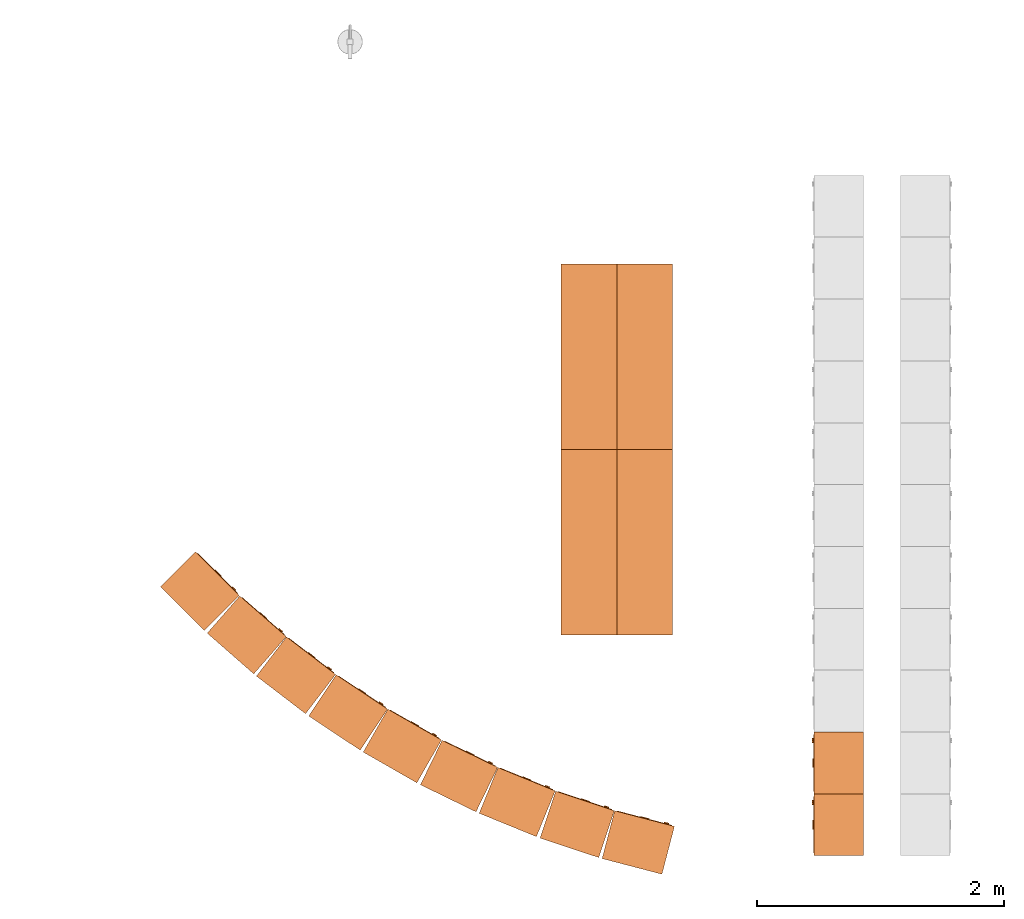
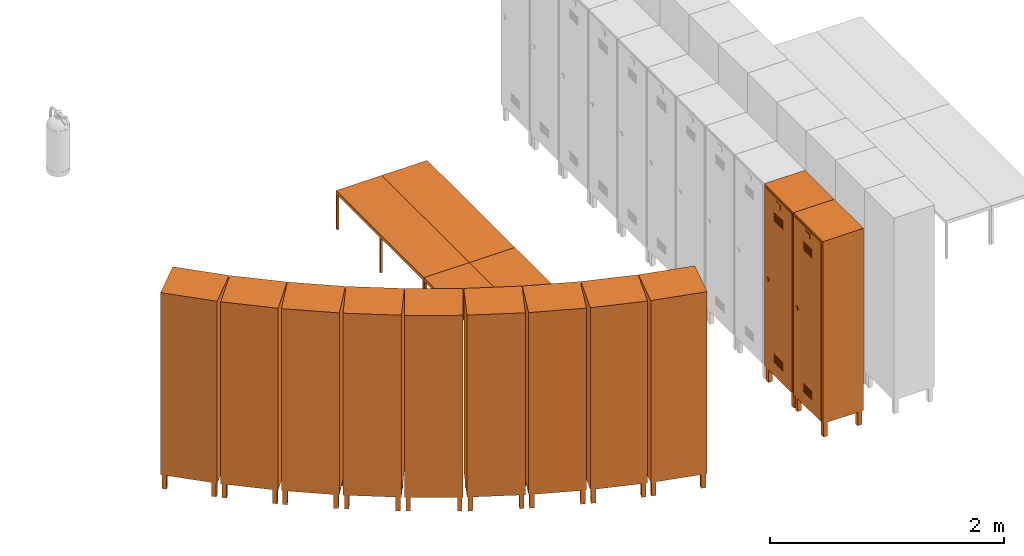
# One storey, part 4 of 7: 15 proxies.
"""IFC4 building model written with IfcOpenShell, lengths in millimetres."""

from ifc_helpers import new_model, entity, si_unit, converted_unit, derived_unit, direction, frame, origin_with_axes, place, context, subcontext, project, spatial, polygons, source, transform, mapped, type_object, element, save


model = new_model("IFC4")

# Units and contexts
model_context = context("Model", 3, precision=0.01, world=origin_with_axes(), true_north=direction((0.0, 1.0)))
body_context = subcontext(model_context, "Body", "Model", "MODEL_VIEW")
ifc_project = project(units=[si_unit("LENGTHUNIT", "METRE", prefix="MILLI"), si_unit("AREAUNIT", "SQUARE_METRE"), si_unit("VOLUMEUNIT", "CUBIC_METRE"), converted_unit("PLANEANGLEUNIT", "DEGREE", entity("IfcPlaneAngleMeasure", 0.0174532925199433), si_unit("PLANEANGLEUNIT", "RADIAN"), dimensions=[0, 0, 0, 0, 0, 0, 0]), converted_unit("TIMEUNIT", "Year", entity("IfcTimeMeasure", 31557600.0), si_unit("TIMEUNIT", "SECOND"), dimensions=[0, 0, 1, 0, 0, 0, 0]), si_unit("MASSUNIT", "GRAM", prefix="KILO"), si_unit("THERMODYNAMICTEMPERATUREUNIT", "DEGREE_CELSIUS"), si_unit("LUMINOUSINTENSITYUNIT", "LUMEN"), si_unit("ENERGYUNIT", "JOULE", prefix="MEGA"), derived_unit("THERMALCONDUCTANCEUNIT", [(si_unit("POWERUNIT", "WATT"), 1), (si_unit("LENGTHUNIT", "METRE"), -1), (si_unit("THERMODYNAMICTEMPERATUREUNIT", "KELVIN"), -1)]), derived_unit("SPECIFICHEATCAPACITYUNIT", [(si_unit("ENERGYUNIT", "JOULE"), 1), (si_unit("MASSUNIT", "GRAM", prefix="KILO"), -1), (si_unit("THERMODYNAMICTEMPERATUREUNIT", "KELVIN"), -1)]), derived_unit("MASSDENSITYUNIT", [(si_unit("MASSUNIT", "GRAM", prefix="KILO"), 1), (si_unit("VOLUMEUNIT", "CUBIC_METRE"), -1)])], contexts=[model_context])

# Site, building, storey
site_placement = place(None, origin_with_axes())
site = spatial("IfcSite", under=ifc_project, at=site_placement, Name="Exteriér", CompositionType="ELEMENT")
building_placement = place(site_placement, origin_with_axes())
building = spatial("IfcBuilding", under=site, at=building_placement, Name="Univerzitní lezecké centrum", CompositionType="ELEMENT")
storey_placement = place(building_placement, frame((0.0, 0.0, -3350.0), z_axis=(0.0, 0.0, 1.0), x_axis=(1.0, 0.0, 0.0)))
storey = spatial("IfcBuildingStorey", under=building, at=storey_placement, Name="1.PP", CompositionType="ELEMENT", Elevation=-3350.0)

# Proxies
building_element_proxy_type_1 = type_object("IfcBuildingElementProxyType", Name="Skříňky 24", PredefinedType="NOTDEFINED")
shared_shape_1 = source(origin_with_axes(), body_context, "Body", "Tessellation", [
    polygons([(9.999999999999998, 9.999999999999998, 0.0), (50.0, 9.999999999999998, 0.0), (50.0, 9.999999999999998, 150.0), (9.999999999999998, 9.999999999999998, 150.0), (9.999999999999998, 50.0, 0.0), (50.0, 50.0, 0.0), (50.0, 50.0, 150.0), (9.999999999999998, 50.0, 150.0)], [[[1, 2, 3, 4]], [[1, 5, 6, 2]], [[2, 6, 7, 3]], [[4, 3, 7, 8]], [[5, 1, 4, 8]], [[6, 5, 8, 7]]], closed=True),
    polygons([(449.9999999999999, 9.999999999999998, 0.0), (490.0, 9.999999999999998, 0.0), (490.0, 9.999999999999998, 150.0), (449.9999999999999, 9.999999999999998, 150.0), (449.9999999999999, 50.0, 0.0), (490.0, 50.0, 0.0), (490.0, 50.0, 150.0), (449.9999999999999, 50.0, 150.0)], [[[1, 2, 3, 4]], [[1, 5, 6, 2]], [[2, 6, 7, 3]], [[4, 3, 7, 8]], [[5, 1, 4, 8]], [[6, 5, 8, 7]]], closed=True),
    polygons([(9.999999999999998, 350.0, 0.0), (50.0, 350.0, 0.0), (50.0, 350.0, 150.0), (9.999999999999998, 350.0, 150.0), (9.999999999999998, 390.0, 0.0), (50.0, 390.0, 0.0), (50.0, 390.0, 150.0), (9.999999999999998, 390.0, 150.0)], [[[1, 2, 3, 4]], [[1, 5, 6, 2]], [[2, 6, 7, 3]], [[4, 3, 7, 8]], [[5, 1, 4, 8]], [[6, 5, 8, 7]]], closed=True),
    polygons([(449.9999999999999, 350.0, 0.0), (490.0, 350.0, 0.0), (490.0, 350.0, 150.0), (449.9999999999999, 350.0, 150.0), (449.9999999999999, 390.0, 0.0), (490.0, 390.0, 0.0), (490.0, 390.0, 150.0), (449.9999999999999, 390.0, 150.0)], [[[1, 2, 3, 4]], [[1, 5, 6, 2]], [[2, 6, 7, 3]], [[4, 3, 7, 8]], [[5, 1, 4, 8]], [[6, 5, 8, 7]]], closed=True),
    polygons([(0.0, 0.0, 150.0), (0.0, 0.0, 2050.0), (0.0, 379.9999999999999, 2050.0), (0.0, 380.0, 150.0), (500.0, 0.0, 150.0), (500.0, 0.0, 2050.0), (20.0, 0.0, 170.0), (20.0, 0.0, 2030.0), (480.0, 0.0, 2030.0), (480.0, 0.0, 170.0), (500.0, 379.9999999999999, 2050.0), (500.0, 380.0, 150.0), (20.0, 380.0, 170.0), (480.0, 380.0, 170.0), (480.0, 379.9999999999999, 2030.0), (20.0, 379.9999999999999, 2030.0)], [[[1, 2, 3, 4]], [[1, 5, 6, 2], [7, 8, 9, 10]], [[2, 6, 11, 3]], [[4, 3, 11, 12], [13, 14, 15, 16]], [[5, 1, 4, 12]], [[6, 5, 12, 11]], [[8, 7, 13, 16]], [[9, 8, 16, 15]], [[10, 9, 15, 14]], [[7, 10, 14, 13]]], closed=True),
    polygons([(0.0, 379.9999999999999, 2050.0), (500.0, 379.9999999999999, 2050.0), (500.0, 399.9999999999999, 2050.0), (0.0, 399.9999999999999, 2050.0), (0.0, 380.0, 150.0), (500.0, 380.0, 150.0), (500.0, 400.0, 150.0), (0.0, 400.0, 150.0)], [[[1, 2, 3, 4]], [[1, 5, 6, 2]], [[2, 6, 7, 3]], [[4, 3, 7, 8]], [[5, 1, 4, 8]], [[6, 5, 8, 7]]], closed=True),
    polygons([(20.0, 5.0, 170.0), (480.0000000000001, 5.0, 170.0), (480.0000000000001, -5.0, 170.0), (20.0, -5.0, 170.0), (20.0, 5.000000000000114, 2030.0), (480.0000000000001, 5.000000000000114, 2030.0), (175.0, 5.000000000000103, 1850.0), (325.0000000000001, 5.000000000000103, 1850.0), (325.0000000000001, 5.000000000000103, 1860.0), (175.0, 5.000000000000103, 1860.0), (175.0, 5.000000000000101, 1830.0), (325.0000000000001, 5.000000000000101, 1830.0), (325.0000000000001, 5.000000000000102, 1840.0), (175.0, 5.000000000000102, 1840.0), (175.0, 5.0000000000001, 1810.0), (325.0000000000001, 5.0000000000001, 1810.0), (325.0000000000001, 5.0000000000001, 1820.0), (175.0, 5.0000000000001, 1820.0), (175.0, 5.000000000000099, 1790.0), (325.0000000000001, 5.000000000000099, 1790.0), (325.0000000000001, 5.000000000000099, 1800.0), (175.0, 5.000000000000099, 1800.0), (175.0, 5.000000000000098, 1770.0), (325.0000000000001, 5.000000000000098, 1770.0), (325.0000000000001, 5.000000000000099, 1780.0), (175.0, 5.000000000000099, 1780.0), (175.0, 5.000000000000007, 290.0), (325.0000000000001, 5.000000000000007, 290.0), (325.0000000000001, 5.000000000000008, 300.0), (175.0, 5.000000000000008, 300.0), (175.0, 5.000000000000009, 310.0), (325.0000000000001, 5.000000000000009, 310.0), (325.0000000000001, 5.00000000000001, 319.9999999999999), (175.0, 5.00000000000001, 319.9999999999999), (175.0, 5.00000000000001, 329.9999999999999), (325.0000000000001, 5.00000000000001, 329.9999999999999), (325.0000000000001, 5.000000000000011, 339.9999999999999), (175.0, 5.000000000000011, 339.9999999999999), (175.0, 5.000000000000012, 350.0), (325.0000000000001, 5.000000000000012, 350.0), (325.0000000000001, 5.000000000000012, 360.0), (175.0, 5.000000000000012, 360.0), (175.0, 5.000000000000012, 370.0), (325.0000000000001, 5.000000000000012, 370.0), (325.0000000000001, 5.000000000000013, 380.0), (175.0, 5.000000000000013, 380.0), (480.0000000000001, -4.999999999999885, 2030.0), (20.0, -4.999999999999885, 2030.0), (175.0, -4.999999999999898, 1850.0), (175.0, -4.999999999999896, 1860.0), (325.0000000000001, -4.999999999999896, 1860.0), (325.0000000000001, -4.999999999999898, 1850.0), (175.0, -4.999999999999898, 1830.0), (175.0, -4.999999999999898, 1840.0), (325.0000000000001, -4.999999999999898, 1840.0), (325.0000000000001, -4.999999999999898, 1830.0), (175.0, -4.9999999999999, 1810.0), (175.0, -4.9999999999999, 1820.0), (325.0000000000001, -4.9999999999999, 1820.0), (325.0000000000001, -4.9999999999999, 1810.0), (175.0, -4.999999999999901, 1790.0), (175.0, -4.9999999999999, 1800.0), (325.0000000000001, -4.9999999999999, 1800.0), (325.0000000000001, -4.999999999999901, 1790.0), (175.0, -4.999999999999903, 1770.0), (175.0, -4.999999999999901, 1780.0), (325.0000000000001, -4.999999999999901, 1780.0), (325.0000000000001, -4.999999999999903, 1770.0), (175.0, -4.999999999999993, 290.0), (175.0, -4.999999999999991, 300.0), (325.0000000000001, -4.999999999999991, 300.0), (325.0000000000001, -4.999999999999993, 290.0), (175.0, -4.999999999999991, 310.0), (175.0, -4.999999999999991, 319.9999999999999), (325.0000000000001, -4.999999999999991, 319.9999999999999), (325.0000000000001, -4.999999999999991, 310.0), (175.0, -4.999999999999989, 329.9999999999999), (175.0, -4.999999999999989, 339.9999999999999), (325.0000000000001, -4.999999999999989, 339.9999999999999), (325.0000000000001, -4.999999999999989, 329.9999999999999), (175.0, -4.999999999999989, 350.0), (175.0, -4.999999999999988, 360.0), (325.0000000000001, -4.999999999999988, 360.0), (325.0000000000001, -4.999999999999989, 350.0), (175.0, -4.999999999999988, 370.0), (175.0, -4.999999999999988, 380.0), (325.0000000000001, -4.999999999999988, 380.0), (325.0000000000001, -4.999999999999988, 370.0)], [[[1, 2, 3, 4]], [[1, 5, 6, 2], [7, 8, 9, 10], [11, 12, 13, 14], [15, 16, 17, 18], [19, 20, 21, 22], [23, 24, 25, 26], [27, 28, 29, 30], [31, 32, 33, 34], [35, 36, 37, 38], [39, 40, 41, 42], [43, 44, 45, 46]], [[2, 6, 47, 3]], [[4, 3, 47, 48], [49, 50, 51, 52], [53, 54, 55, 56], [57, 58, 59, 60], [61, 62, 63, 64], [65, 66, 67, 68], [69, 70, 71, 72], [73, 74, 75, 76], [77, 78, 79, 80], [81, 82, 83, 84], [85, 86, 87, 88]], [[5, 1, 4, 48]], [[6, 5, 48, 47]], [[8, 7, 49, 52]], [[9, 8, 52, 51]], [[10, 9, 51, 50]], [[7, 10, 50, 49]], [[12, 11, 53, 56]], [[13, 12, 56, 55]], [[14, 13, 55, 54]], [[11, 14, 54, 53]], [[16, 15, 57, 60]], [[17, 16, 60, 59]], [[18, 17, 59, 58]], [[15, 18, 58, 57]], [[20, 19, 61, 64]], [[21, 20, 64, 63]], [[22, 21, 63, 62]], [[19, 22, 62, 61]], [[24, 23, 65, 68]], [[25, 24, 68, 67]], [[26, 25, 67, 66]], [[23, 26, 66, 65]], [[28, 27, 69, 72]], [[29, 28, 72, 71]], [[30, 29, 71, 70]], [[27, 30, 70, 69]], [[32, 31, 73, 76]], [[33, 32, 76, 75]], [[34, 33, 75, 74]], [[31, 34, 74, 73]], [[36, 35, 77, 80]], [[37, 36, 80, 79]], [[38, 37, 79, 78]], [[35, 38, 78, 77]], [[40, 39, 81, 84]], [[41, 40, 84, 83]], [[42, 41, 83, 82]], [[39, 42, 82, 81]], [[44, 43, 85, 88]], [[45, 44, 88, 87]], [[46, 45, 87, 86]], [[43, 46, 86, 85]]], closed=True),
    polygons([(287.5, -10.0, 1950.0), (212.5, -10.0, 1950.0), (212.5, -5.0, 1950.0), (287.5, -5.0, 1950.0), (287.5, -10.0, 2000.0), (212.5, -10.0, 2000.0), (212.5, -5.0, 2000.0), (287.5, -5.0, 2000.0)], [[[1, 2, 3, 4]], [[2, 1, 5, 6]], [[3, 2, 6, 7]], [[4, 3, 7, 8]], [[1, 4, 8, 5]], [[6, 5, 8, 7]]], closed=True),
    polygons([(84.14213562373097, -5.000000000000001, 1085.857864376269), (70.0, -5.000000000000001, 1080.0), (55.85786437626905, -5.000000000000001, 1085.857864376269), (50.0, -5.0, 1100.0), (55.85786437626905, -4.999999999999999, 1114.142135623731), (70.0, -4.999999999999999, 1120.0), (84.14213562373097, -4.999999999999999, 1114.142135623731), (90.00000000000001, -5.0, 1100.0), (84.14213562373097, -15.0, 1085.857864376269), (70.0, -15.0, 1080.0), (55.85786437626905, -15.0, 1085.857864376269), (50.0, -15.0, 1100.0), (55.85786437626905, -15.0, 1114.142135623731), (70.0, -15.0, 1120.0), (84.14213562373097, -15.0, 1114.142135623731), (90.00000000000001, -15.0, 1100.0)], [[[1, 2, 3, 4, 5, 6, 7, 8]], [[2, 1, 9, 10]], [[3, 2, 10, 11]], [[4, 3, 11, 12]], [[5, 4, 12, 13]], [[6, 5, 13, 14]], [[7, 6, 14, 15]], [[8, 7, 15, 16]], [[1, 8, 16, 9]], [[9, 16, 15, 14, 13, 12, 11, 10]]], closed=True),
])
for number, where, z_axis, x_axis, name in (
    (1, (-2365.967182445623, -6178.97093116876, 0.0), (0.0, 0.0, 1.0), (-0.7527745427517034, 0.658278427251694, 0.0), "OV02"),
    (2, (772.1134761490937, -7712.713227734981, 0.0), (0.0, 0.0, 1.0), (-0.9675455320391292, 0.2526967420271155, 0.0), "OV02"),
    (3, (1899.851648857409, -6949.739482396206, 0.0), (0.0, 0.0, 1.0), (0.0, -1.0, 0.0), "OV02"),
    (4, (1899.851648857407, -7449.739482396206, 0.0), (0.0, 0.0, 1.0), (0.0, -1.0, 0.0), "OV02"),
    (5, (-1967.490031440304, -6484.169070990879, 0.0), (0.0, 0.0, 1.0), (-0.7942853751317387, 0.6075448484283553, 0.0), "OV02"),
    (6, (-2746.250574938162, -5846.507886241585, 0.0), (0.0, 0.0, 1.0), (-0.7065217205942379, 0.707691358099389, 0.0), "OV02"),
    (7, (-1546.886089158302, -6763.907472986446, 0.0), (0.0, 0.0, 1.0), (-0.8330566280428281, 0.5531877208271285, 0.0), "OV02"),
    (8, (-657.1854953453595, -7235.721071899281, 0.0), (0.0, 0.0, 1.0), (-0.8989745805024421, 0.4380008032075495, 0.0), "OV02"),
    (9, (-192.65432118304, -7425.828232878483, 0.0), (0.0, 0.0, 1.0), (-0.9257394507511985, 0.3781619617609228, 0.0), "OV02"),
    (10, (286.5583778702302, -7585.566890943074, 0.0), (0.0, 0.0, 1.0), (-0.9489108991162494, 0.3155441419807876, 0.0), "OV02"),
    (11, (-1111.620269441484, -7013.85468863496, 0.0), (0.0, 0.0, 1.0), (-0.867509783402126, 0.4974201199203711, 0.0), "OV02"),
):
    element("IfcBuildingElementProxy", number, at=place(storey_placement, frame(where, z_axis=z_axis, x_axis=x_axis)), inside=storey, type_object=building_element_proxy_type_1, Name=name, PredefinedType="NOTDEFINED", context=body_context, shape_type="MappedRepresentation", body=[
        mapped(shared_shape_1, transform((0.0, 0.0, 0.0))),
    ])
building_element_proxy_type_2 = type_object("IfcBuildingElementProxyType", Name="Lavice 24", PredefinedType="NOTDEFINED")
shared_shape_2 = source(origin_with_axes(), body_context, "Body", "Tessellation", [
    polygons([(20.0, 0.0, 0.0), (0.0, 0.0, 0.0), (0.0, 20.0, 0.0), (20.0, 20.0, 0.0), (20.0, 0.0, 385.0), (0.0, 0.0, 385.0), (0.0, 20.0, 385.0), (20.0, 20.0, 385.0)], [[[1, 2, 3, 4]], [[2, 1, 5, 6]], [[3, 2, 6, 7]], [[4, 3, 7, 8]], [[1, 4, 8, 5]], [[6, 5, 8, 7]]], closed=True),
    polygons([(20.0, 430.0, 0.0), (0.0, 430.0, 0.0), (0.0, 450.0, 0.0), (20.0, 450.0, 0.0), (20.0, 430.0, 385.0), (0.0, 430.0, 385.0), (0.0, 450.0, 385.0), (20.0, 450.0, 385.0)], [[[1, 2, 3, 4]], [[2, 1, 5, 6]], [[3, 2, 6, 7]], [[4, 3, 7, 8]], [[1, 4, 8, 5]], [[6, 5, 8, 7]]], closed=True),
    polygons([(1500.0, 0.0, 0.0), (1480.0, 0.0, 0.0), (1480.0, 20.0, 0.0), (1500.0, 20.0, 0.0), (1500.0, 0.0, 385.0), (1480.0, 0.0, 385.0), (1480.0, 20.0, 385.0), (1500.0, 20.0, 385.0)], [[[1, 2, 3, 4]], [[2, 1, 5, 6]], [[3, 2, 6, 7]], [[4, 3, 7, 8]], [[1, 4, 8, 5]], [[6, 5, 8, 7]]], closed=True),
    polygons([(1500.0, 430.0, 0.0), (1480.0, 430.0, 0.0), (1480.0, 450.0, 0.0), (1500.0, 450.0, 0.0), (1500.0, 430.0, 385.0), (1480.0, 430.0, 385.0), (1480.0, 450.0, 385.0), (1500.0, 450.0, 385.0)], [[[1, 2, 3, 4]], [[2, 1, 5, 6]], [[3, 2, 6, 7]], [[4, 3, 7, 8]], [[1, 4, 8, 5]], [[6, 5, 8, 7]]], closed=True),
    polygons([(760.0, 0.0, 0.0), (740.0, 0.0, 0.0), (740.0, 20.0, 0.0), (760.0, 20.0, 0.0), (760.0, 0.0, 385.0), (740.0, 0.0, 385.0), (740.0, 20.0, 385.0), (760.0, 20.0, 385.0)], [[[1, 2, 3, 4]], [[2, 1, 5, 6]], [[3, 2, 6, 7]], [[4, 3, 7, 8]], [[1, 4, 8, 5]], [[6, 5, 8, 7]]], closed=True),
    polygons([(760.0, 430.0, 0.0), (740.0, 430.0, 0.0), (740.0, 450.0, 0.0), (760.0, 450.0, 0.0), (760.0, 430.0, 385.0), (740.0, 430.0, 385.0), (740.0, 450.0, 385.0), (760.0, 450.0, 385.0)], [[[1, 2, 3, 4]], [[2, 1, 5, 6]], [[3, 2, 6, 7]], [[4, 3, 7, 8]], [[1, 4, 8, 5]], [[6, 5, 8, 7]]], closed=True),
    polygons([(740.0, 0.0, 365.0000000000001), (20.0, 0.0, 365.0000000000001), (20.0, 20.0, 365.0000000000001), (740.0, 20.0, 365.0000000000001), (740.0, 0.0, 385.0000000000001), (20.0, 0.0, 385.0000000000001), (20.0, 20.0, 385.0000000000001), (740.0, 20.0, 385.0000000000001)], [[[1, 2, 3, 4]], [[2, 1, 5, 6]], [[3, 2, 6, 7]], [[4, 3, 7, 8]], [[1, 4, 8, 5]], [[6, 5, 8, 7]]], closed=True),
    polygons([(1480.0, 0.0, 365.0000000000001), (760.0, 0.0, 365.0000000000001), (760.0, 20.0, 365.0000000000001), (1480.0, 20.0, 365.0000000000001), (1480.0, 0.0, 385.0000000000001), (760.0, 0.0, 385.0000000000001), (760.0, 20.0, 385.0000000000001), (1480.0, 20.0, 385.0000000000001)], [[[1, 2, 3, 4]], [[2, 1, 5, 6]], [[3, 2, 6, 7]], [[4, 3, 7, 8]], [[1, 4, 8, 5]], [[6, 5, 8, 7]]], closed=True),
    polygons([(740.0, 430.0, 365.0000000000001), (20.0, 430.0, 365.0000000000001), (20.0, 450.0, 365.0000000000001), (740.0, 450.0, 365.0000000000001), (740.0, 430.0, 385.0000000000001), (20.0, 430.0, 385.0000000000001), (20.0, 450.0, 385.0000000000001), (740.0, 450.0, 385.0000000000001)], [[[1, 2, 3, 4]], [[2, 1, 5, 6]], [[3, 2, 6, 7]], [[4, 3, 7, 8]], [[1, 4, 8, 5]], [[6, 5, 8, 7]]], closed=True),
    polygons([(1480.0, 430.0, 365.0000000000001), (760.0, 430.0, 365.0000000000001), (760.0, 450.0, 365.0000000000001), (1480.0, 450.0, 365.0000000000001), (1480.0, 430.0, 385.0000000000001), (760.0, 430.0, 385.0000000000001), (760.0, 450.0, 385.0000000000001), (1480.0, 450.0, 385.0000000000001)], [[[1, 2, 3, 4]], [[2, 1, 5, 6]], [[3, 2, 6, 7]], [[4, 3, 7, 8]], [[1, 4, 8, 5]], [[6, 5, 8, 7]]], closed=True),
    polygons([(20.0, 20.0, 365.0000000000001), (0.0, 20.0, 365.0000000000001), (0.0, 430.0000000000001, 365.0000000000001), (20.0, 430.0000000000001, 365.0000000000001), (20.0, 20.0, 385.0000000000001), (0.0, 20.0, 385.0000000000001), (0.0, 430.0000000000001, 385.0000000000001), (20.0, 430.0000000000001, 385.0000000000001)], [[[1, 2, 3, 4]], [[2, 1, 5, 6]], [[3, 2, 6, 7]], [[4, 3, 7, 8]], [[1, 4, 8, 5]], [[6, 5, 8, 7]]], closed=True),
    polygons([(760.0, 20.0, 365.0000000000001), (740.0, 20.0, 365.0000000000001), (740.0, 430.0000000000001, 365.0000000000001), (760.0, 430.0000000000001, 365.0000000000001), (760.0, 20.0, 385.0000000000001), (740.0, 20.0, 385.0000000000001), (740.0, 430.0000000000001, 385.0000000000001), (760.0, 430.0000000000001, 385.0000000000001)], [[[1, 2, 3, 4]], [[2, 1, 5, 6]], [[3, 2, 6, 7]], [[4, 3, 7, 8]], [[1, 4, 8, 5]], [[6, 5, 8, 7]]], closed=True),
    polygons([(1500.0, 20.0, 365.0000000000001), (1480.0, 20.0, 365.0000000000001), (1480.0, 430.0000000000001, 365.0000000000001), (1500.0, 430.0000000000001, 365.0000000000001), (1500.0, 20.0, 385.0000000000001), (1480.0, 20.0, 385.0000000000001), (1480.0, 430.0000000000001, 385.0000000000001), (1500.0, 430.0000000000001, 385.0000000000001)], [[[1, 2, 3, 4]], [[2, 1, 5, 6]], [[3, 2, 6, 7]], [[4, 3, 7, 8]], [[1, 4, 8, 5]], [[6, 5, 8, 7]]], closed=True),
    polygons([(0.0, 0.0, 385.0), (1500.0, 0.0, 385.0), (1500.0, 0.0, 400.0), (0.0, 0.0, 400.0), (0.0, 450.0, 385.0), (1500.0, 450.0, 385.0), (1500.0, 450.0, 400.0), (0.0, 450.0, 400.0)], [[[1, 2, 3, 4]], [[1, 5, 6, 2]], [[2, 6, 7, 3]], [[4, 3, 7, 8]], [[5, 1, 4, 8]], [[6, 5, 8, 7]]], closed=True),
])
for number, where, z_axis, x_axis, name in (
    (12, (305.6251298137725, -4666.618359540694, 0.0), (0.0, 0.0, 1.0), (0.0, -1.0, 0.0), "OV04"),
    (13, (305.6251298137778, -3166.618359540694, 0.0), (0.0, 0.0, 1.0), (0.0, -1.0, 0.0), "OV04"),
):
    element("IfcBuildingElementProxy", number, at=place(storey_placement, frame(where, z_axis=z_axis, x_axis=x_axis)), inside=storey, type_object=building_element_proxy_type_2, Name=name, PredefinedType="NOTDEFINED", context=body_context, shape_type="MappedRepresentation", body=[
        mapped(shared_shape_2, transform((0.0, 0.0, 0.0))),
    ])
shared_shape_3 = source(origin_with_axes(), body_context, "Body", "Tessellation", [
    polygons([(-20.0, 0.0, 0.0), (-20.0, 20.0, 0.0), (0.0, 20.0, 0.0), (0.0, 0.0, 0.0), (-20.0, 0.0, 385.0), (-20.0, 20.0, 385.0), (0.0, 20.0, 385.0), (0.0, 0.0, 385.0)], [[[1, 2, 3, 4]], [[1, 5, 6, 2]], [[2, 6, 7, 3]], [[3, 7, 8, 4]], [[4, 8, 5, 1]], [[8, 7, 6, 5]]], closed=True),
    polygons([(-20.0, 430.0, 0.0), (-20.0, 450.0, 0.0), (0.0, 450.0, 0.0), (0.0, 430.0, 0.0), (-20.0, 430.0, 385.0), (-20.0, 450.0, 385.0), (0.0, 450.0, 385.0), (0.0, 430.0, 385.0)], [[[1, 2, 3, 4]], [[1, 5, 6, 2]], [[2, 6, 7, 3]], [[3, 7, 8, 4]], [[4, 8, 5, 1]], [[8, 7, 6, 5]]], closed=True),
    polygons([(-1500.0, 0.0, 0.0), (-1500.0, 20.0, 0.0), (-1480.0, 20.0, 0.0), (-1480.0, 0.0, 0.0), (-1500.0, 0.0, 385.0), (-1500.0, 20.0, 385.0), (-1480.0, 20.0, 385.0), (-1480.0, 0.0, 385.0)], [[[1, 2, 3, 4]], [[1, 5, 6, 2]], [[2, 6, 7, 3]], [[3, 7, 8, 4]], [[4, 8, 5, 1]], [[8, 7, 6, 5]]], closed=True),
    polygons([(-1500.0, 430.0, 0.0), (-1500.0, 450.0, 0.0), (-1480.0, 450.0, 0.0), (-1480.0, 430.0, 0.0), (-1500.0, 430.0, 385.0), (-1500.0, 450.0, 385.0), (-1480.0, 450.0, 385.0), (-1480.0, 430.0, 385.0)], [[[1, 2, 3, 4]], [[1, 5, 6, 2]], [[2, 6, 7, 3]], [[3, 7, 8, 4]], [[4, 8, 5, 1]], [[8, 7, 6, 5]]], closed=True),
    polygons([(-760.0, 0.0, 0.0), (-760.0, 20.0, 0.0), (-740.0, 20.0, 0.0), (-740.0, 0.0, 0.0), (-760.0, 0.0, 385.0), (-760.0, 20.0, 385.0), (-740.0, 20.0, 385.0), (-740.0, 0.0, 385.0)], [[[1, 2, 3, 4]], [[1, 5, 6, 2]], [[2, 6, 7, 3]], [[3, 7, 8, 4]], [[4, 8, 5, 1]], [[8, 7, 6, 5]]], closed=True),
    polygons([(-760.0, 430.0, 0.0), (-760.0, 450.0, 0.0), (-740.0, 450.0, 0.0), (-740.0, 430.0, 0.0), (-760.0, 430.0, 385.0), (-760.0, 450.0, 385.0), (-740.0, 450.0, 385.0), (-740.0, 430.0, 385.0)], [[[1, 2, 3, 4]], [[1, 5, 6, 2]], [[2, 6, 7, 3]], [[3, 7, 8, 4]], [[4, 8, 5, 1]], [[8, 7, 6, 5]]], closed=True),
    polygons([(-740.0, 0.0, 365.0000000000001), (-740.0, 20.0, 365.0000000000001), (-20.0, 20.0, 365.0000000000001), (-20.0, 0.0, 365.0000000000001), (-740.0, 0.0, 385.0000000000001), (-740.0, 20.0, 385.0000000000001), (-20.0, 20.0, 385.0000000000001), (-20.0, 0.0, 385.0000000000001)], [[[1, 2, 3, 4]], [[1, 5, 6, 2]], [[2, 6, 7, 3]], [[3, 7, 8, 4]], [[4, 8, 5, 1]], [[8, 7, 6, 5]]], closed=True),
    polygons([(-1480.0, 0.0, 365.0000000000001), (-1480.0, 20.0, 365.0000000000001), (-760.0, 20.0, 365.0000000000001), (-760.0, 0.0, 365.0000000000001), (-1480.0, 0.0, 385.0000000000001), (-1480.0, 20.0, 385.0000000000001), (-760.0, 20.0, 385.0000000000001), (-760.0, 0.0, 385.0000000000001)], [[[1, 2, 3, 4]], [[1, 5, 6, 2]], [[2, 6, 7, 3]], [[3, 7, 8, 4]], [[4, 8, 5, 1]], [[8, 7, 6, 5]]], closed=True),
    polygons([(-740.0, 430.0, 365.0000000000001), (-740.0, 450.0, 365.0000000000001), (-20.0, 450.0, 365.0000000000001), (-20.0, 430.0, 365.0000000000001), (-740.0, 430.0, 385.0000000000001), (-740.0, 450.0, 385.0000000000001), (-20.0, 450.0, 385.0000000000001), (-20.0, 430.0, 385.0000000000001)], [[[1, 2, 3, 4]], [[1, 5, 6, 2]], [[2, 6, 7, 3]], [[3, 7, 8, 4]], [[4, 8, 5, 1]], [[8, 7, 6, 5]]], closed=True),
    polygons([(-1480.0, 430.0, 365.0000000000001), (-1480.0, 450.0, 365.0000000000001), (-760.0, 450.0, 365.0000000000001), (-760.0, 430.0, 365.0000000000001), (-1480.0, 430.0, 385.0000000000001), (-1480.0, 450.0, 385.0000000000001), (-760.0, 450.0, 385.0000000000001), (-760.0, 430.0, 385.0000000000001)], [[[1, 2, 3, 4]], [[1, 5, 6, 2]], [[2, 6, 7, 3]], [[3, 7, 8, 4]], [[4, 8, 5, 1]], [[8, 7, 6, 5]]], closed=True),
    polygons([(-20.0, 20.0, 365.0000000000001), (-20.0, 430.0000000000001, 365.0000000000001), (0.0, 430.0000000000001, 365.0000000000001), (0.0, 20.0, 365.0000000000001), (-20.0, 20.0, 385.0000000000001), (-20.0, 430.0000000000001, 385.0000000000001), (0.0, 430.0000000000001, 385.0000000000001), (0.0, 20.0, 385.0000000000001)], [[[1, 2, 3, 4]], [[1, 5, 6, 2]], [[2, 6, 7, 3]], [[3, 7, 8, 4]], [[4, 8, 5, 1]], [[8, 7, 6, 5]]], closed=True),
    polygons([(-760.0, 20.0, 365.0000000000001), (-760.0, 430.0000000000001, 365.0000000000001), (-740.0, 430.0000000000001, 365.0000000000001), (-740.0, 20.0, 365.0000000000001), (-760.0, 20.0, 385.0000000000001), (-760.0, 430.0000000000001, 385.0000000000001), (-740.0, 430.0000000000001, 385.0000000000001), (-740.0, 20.0, 385.0000000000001)], [[[1, 2, 3, 4]], [[1, 5, 6, 2]], [[2, 6, 7, 3]], [[3, 7, 8, 4]], [[4, 8, 5, 1]], [[8, 7, 6, 5]]], closed=True),
    polygons([(-1500.0, 20.0, 365.0000000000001), (-1500.0, 430.0000000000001, 365.0000000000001), (-1480.0, 430.0000000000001, 365.0000000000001), (-1480.0, 20.0, 365.0000000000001), (-1500.0, 20.0, 385.0000000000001), (-1500.0, 430.0000000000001, 385.0000000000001), (-1480.0, 430.0000000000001, 385.0000000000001), (-1480.0, 20.0, 385.0000000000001)], [[[1, 2, 3, 4]], [[1, 5, 6, 2]], [[2, 6, 7, 3]], [[3, 7, 8, 4]], [[4, 8, 5, 1]], [[8, 7, 6, 5]]], closed=True),
    polygons([(0.0, 0.0, 385.0), (0.0, 0.0, 400.0), (-1500.0, 0.0, 400.0), (-1500.0, 0.0, 385.0), (0.0, 450.0, 385.0), (0.0, 450.0, 400.0), (-1500.0, 450.0, 400.0), (-1500.0, 450.0, 385.0)], [[[1, 2, 3, 4]], [[5, 6, 2, 1]], [[2, 6, 7, 3]], [[4, 3, 7, 8]], [[1, 4, 8, 5]], [[8, 7, 6, 5]]], closed=True),
])
for number, where, z_axis, x_axis, name in (
    (14, (305.6251298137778, -3166.618359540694, 0.0), (0.0, 0.0, 1.0), (0.0, 1.0, 0.0), "OV04"),
    (15, (305.6251298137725, -4666.618359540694, 0.0), (0.0, 0.0, 1.0), (0.0, 1.0, 0.0), "OV04"),
):
    element("IfcBuildingElementProxy", number, at=place(storey_placement, frame(where, z_axis=z_axis, x_axis=x_axis)), inside=storey, type_object=building_element_proxy_type_2, Name=name, PredefinedType="NOTDEFINED", context=body_context, shape_type="MappedRepresentation", body=[
        mapped(shared_shape_3, transform((0.0, 0.0, 0.0))),
    ])

save(model, "model.ifc")
